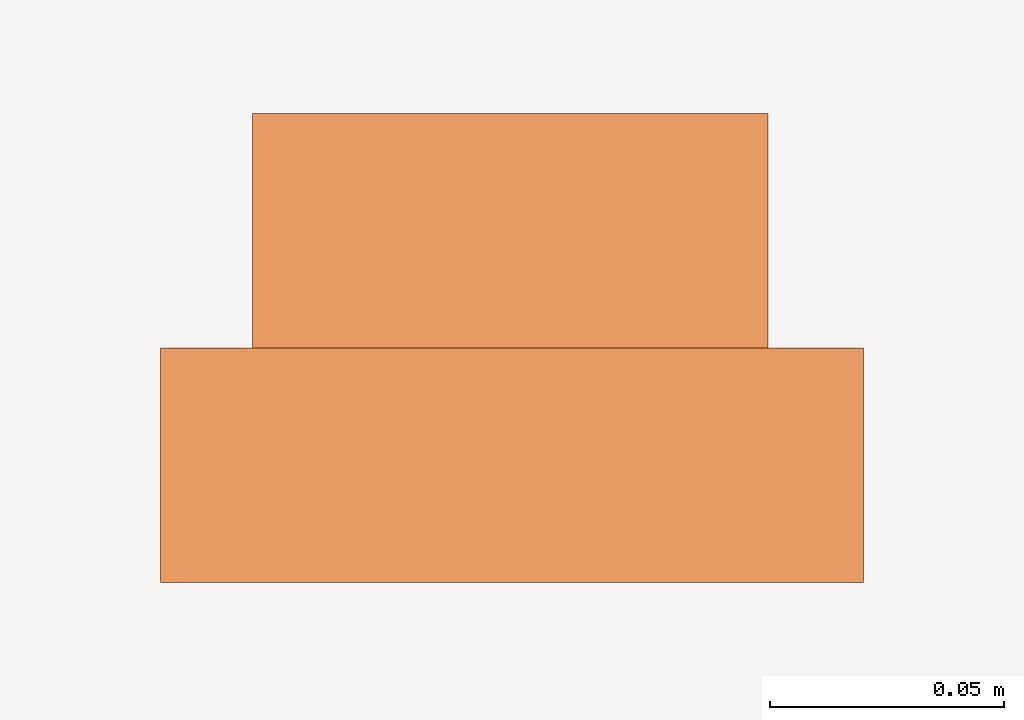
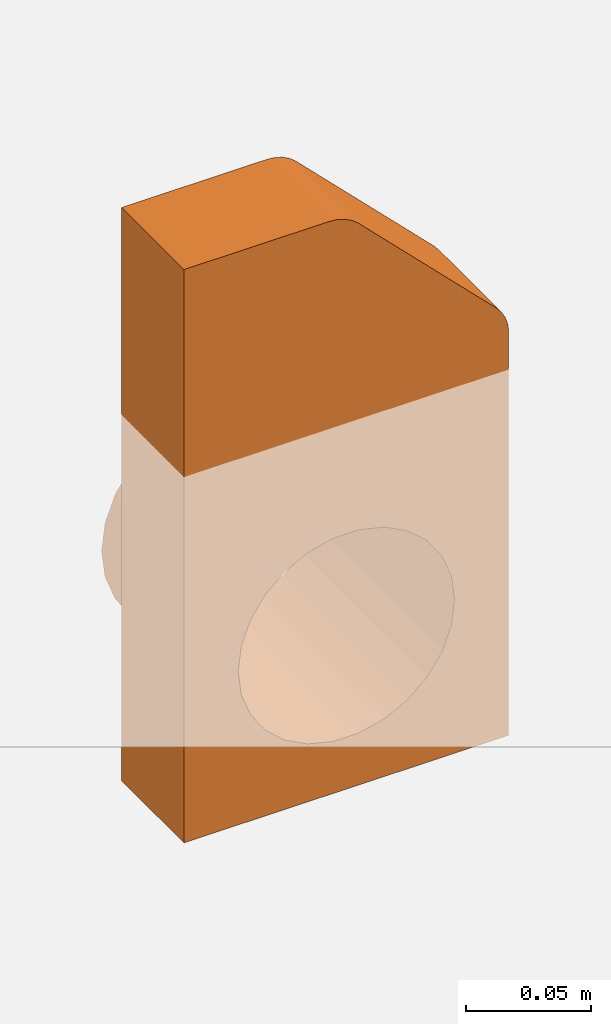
# One storey, part 2 of 2: 1 proxy.
"""IFC2X3 building model written with IfcOpenShell, lengths in millimetres."""

from ifc_helpers import new_model, entity, si_unit, converted_unit, direction, frame, frame_2d, origin, origin_2d_with_axis, place, context, subcontext, project, spatial, polyline, circle_curve, parameter, trimmed, segment, composite_curve, outline, extrude, source, transform, mapped, material, material_list, element, save


model = new_model("IFC2X3")

# Units and contexts
model_context = context("Model", 3, precision=1e-06, world=origin(), true_north=direction((2.0, 6.12303176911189e-17, 1.0)))
context_of_model = context(None, 3, precision=1e-06, world=origin(), true_north=direction((2.0, 6.12303176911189e-17, 1.0)))
body_context = subcontext(model_context, "Body", "Model", "MODEL_VIEW")
ifc_project = project(units=[si_unit("LENGTHUNIT", "METRE", prefix="MILLI"), si_unit("AREAUNIT", "SQUARE_METRE", prefix="MILLI"), si_unit("VOLUMEUNIT", "CUBIC_METRE", prefix="MILLI"), converted_unit("PLANEANGLEUNIT", "DEGREE", entity("IfcRatioMeasure", 0.0174532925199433), si_unit("PLANEANGLEUNIT", "RADIAN"), dimensions=[0, 0, 0, 0, 0, 0, 0]), si_unit("TIMEUNIT", "SECOND")], contexts=[model_context, context_of_model])

# Site, building, storey
site_placement = place(None, origin())
site = spatial("IfcSite", under=ifc_project, at=site_placement, Name="Default", CompositionType="ELEMENT")
building_placement = place(site_placement, origin())
building = spatial("IfcBuilding", under=site, at=building_placement, CompositionType="ELEMENT")
storey_placement = place(building_placement, origin())
storey = spatial("IfcBuildingStorey", under=building, at=storey_placement, Name="Level 1", CompositionType="ELEMENT", Elevation=0.0)

# Proxy
ifc_material_1 = material(Name="Orange")
ifc_material_2 = material(Name="ACO Polymer Concrete.")
ifc_material_list = material_list([ifc_material_1, ifc_material_2])
shared_shape = source(origin(), body_context, "Body", "SweptSolid", [
    extrude(outline(composite_curve([segment(trimmed(circle_curve(origin_2d_with_axis(), 55.0), [parameter(0.0)], [parameter(180.0)], True, "PARAMETER"), True, "CONTINUOUS"), segment(trimmed(circle_curve(origin_2d_with_axis(), 55.0), [parameter(180.0)], [parameter(360.0)], True, "PARAMETER"), True, "CONTINUOUS")], self_intersect=False), holes=[composite_curve([segment(trimmed(circle_curve(frame_2d((0.414501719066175, -0.00156194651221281), x_axis=(1.0, 0.0)), 50.0), [parameter(359.999999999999)], [parameter(180.0)], True, "PARAMETER"), False, "CONTINUOUS"), segment(trimmed(circle_curve(frame_2d((0.414501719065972, -0.00156194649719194), x_axis=(1.0, 0.0)), 50.0), [parameter(180.0)], [parameter(360.0)], True, "PARAMETER"), False, "CONTINUOUS")], self_intersect=False)]), frame((-0.414501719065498, 50.0, -105.00156194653), z_axis=(0.0, 1.0, 0.0), x_axis=(1.0, 0.0, 0.0)), (0.0, 0.0, 1.0), 50.0),
    extrude(outline(composite_curve([segment(polyline([(-19.6828076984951, -65.410008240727), (177.447134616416, -65.410008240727)]), True, "CONTINUOUS"), segment(polyline([(177.447134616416, -65.410008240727), (177.447134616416, 84.5899917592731)]), True, "CONTINUOUS"), segment(polyline([(177.447134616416, 84.5899917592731), (-102.552865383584, 84.5899917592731)]), True, "CONTINUOUS"), segment(polyline([(-102.552865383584, 84.5899917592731), (-102.552865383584, 17.4600494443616)]), True, "CONTINUOUS"), segment(trimmed(circle_curve(frame_2d((-83.5528653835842, 17.4600494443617), x_axis=(0.0, -1.0)), 19.0), [parameter(270.0)], [parameter(315.0)], True, "PARAMETER"), True, "CONTINUOUS"), segment(polyline([(-96.9878942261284, 4.02502060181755), (-33.1178365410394, -59.8450370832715)]), True, "CONTINUOUS"), segment(trimmed(circle_curve(frame_2d((-19.6828076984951, -46.410008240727), x_axis=(0.0, -1.0)), 19.0), [parameter(315.000000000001)], [parameter(5.08888749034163e-13)], True, "PARAMETER"), True, "CONTINUOUS")], self_intersect=False), holes=[composite_curve([segment(trimmed(circle_curve(frame_2d((102.447134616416, 9.58999175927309), x_axis=(0.0, -1.0)), 50.0), [parameter(180.0)], [parameter(360.0)], True, "PARAMETER"), False, "CONTINUOUS"), segment(trimmed(circle_curve(frame_2d((102.447134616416, 9.58999175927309), x_axis=(0.0, -1.0)), 50.0), [parameter(0.0)], [parameter(180.0)], True, "PARAMETER"), False, "CONTINUOUS")], self_intersect=False)]), frame((9.58999175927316, 0.0, -2.55286538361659), z_axis=(0.0, 1.0, 0.0), x_axis=(0.0, 0.0, -1.0)), (0.0, 0.0, 1.0), 50.0),
])
proxy_placement = place(storey_placement, frame((-13460.350578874, -1522.05906174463, 0.0)))
element("IfcBuildingElementProxy", 1, at=proxy_placement, inside=storey, material=ifc_material_list, Name="Civil-Drainage-Channel-ACO-KerbDrain-SP280:7942 - LH inlet/outlet end cap:7942 - LH inlet/outlet end cap", ObjectType="7942 - LH inlet/outlet end cap", CompositionType="ELEMENT", context=body_context, shape_type="MappedRepresentation", body=[
    mapped(shared_shape, transform((0.0, 0.0, 0.0), scale=1.0)),
])

save(model, "model.ifc")
